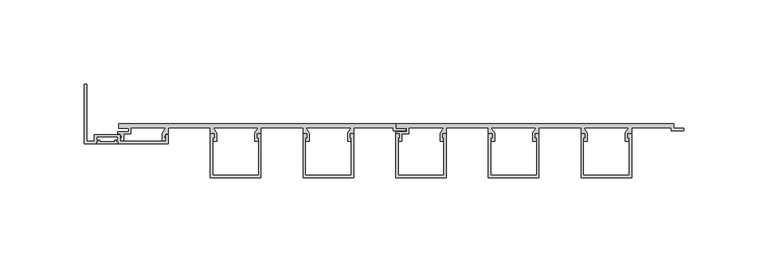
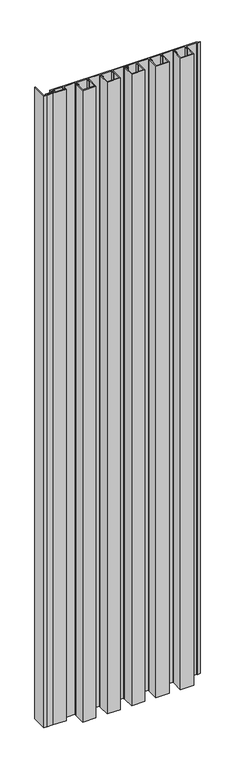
"""IFC4 building model written with IfcOpenShell, lengths in millimetres: proxy geometry, A_GEN_LINE_Main Base_Standard Cap_LTrim : A_GEN_LINE_Main Base_Standard Cap_LTrim."""

from ifc_helpers import new_model, si_unit, origin, origin_with_axes, place, context, project, spatial, polyline, outline, extrude, source, transform, mapped, element, save


def generic_models_4bb52701(model_context):
    return source(origin(), model_context, "Body", "SweptSolid", [
        extrude(outline(polyline([(-13.0106499, -11.8818695), (-13.0106499, -10.9050009), (-12.1106499, -10.9050009), (-12.1106499, -10.0050009), (-11.2354943, -10.0050009), (-11.2354943, -10.9050009), (-2.1892046, -10.9050009), (-2.1892046, -10.0050009), (-1.314049, -10.0050009), (-1.314049, -10.9050009), (-0.414049, -10.9050009), (-0.414049, -11.8818695), (-13.0106499, -11.8818695)])), origin_with_axes(), (0.0, 0.0, 1.0), 1500.0),
        extrude(outline(polyline([(-0.414049, -10.9050009), (-1.314049, -10.9050009), (-1.314049, -10.0050009), (-0.414049, -10.0050009), (-0.414049, -7.8818695), (-13.0306499, -7.8818695), (-13.0306499, -10.0050009), (-12.1306499, -10.0050009), (-12.1306499, -10.9050009), (-13.0306499, -10.9050009), (-13.0306499, -11.8818695), (-20.3575953, -11.8818695), (-20.3575953, 23.3746551), (-18.9575953, 23.3746551), (-18.9575953, -10.4818695), (-14.4306499, -10.4818695), (-14.4306499, -6.4818695), (0.985951, -6.4818695), (0.985951, -10.4818695), (28.1839928, -10.4818695), (28.1839928, -6.4818695), (29.5839928, -6.4818695), (29.5839928, -11.8818695), (-0.414049, -11.8818695), (-0.414049, -10.9050009)])), origin_with_axes(), (0.0, 0.0, 1.0), 1500.0),
        extrude(outline(polyline([(274.5919, -32.2007192), (274.5919, -6.1), (276.740907, -6.1), (276.740907, -8.3419727), (275.9919, -8.5826662), (275.9919, -30.8007192), (303.1919, -30.8007192), (303.1919, -8.5826662), (302.4428931, -8.3419727), (302.4428931, -6.1), (304.5919, -6.1), (304.5919, -32.2007192), (274.5919, -32.2007192)])), origin_with_axes(), (0.0, 0.0, 1.0), 1500.0),
        extrude(outline(polyline([(219.5902928, -32.2007192), (219.5902928, -6.1), (221.7392998, -6.1), (221.7392998, -8.3419727), (220.9902928, -8.5826662), (220.9902928, -30.8007192), (248.1902928, -30.8007192), (248.1902928, -8.5826662), (247.4412859, -8.3419727), (247.4412859, -6.1), (249.5902928, -6.1), (249.5902928, -32.2007192), (219.5902928, -32.2007192)])), origin_with_axes(), (0.0, 0.0, 1.0), 1500.0),
        extrude(outline(polyline([(164.5886856, -32.2007192), (164.5886856, -6.1), (166.7376926, -6.1), (166.7376926, -8.3419727), (165.9886856, -8.5826662), (165.9886856, -30.8007192), (193.1886856, -30.8007192), (193.1886856, -8.5826662), (192.4396787, -8.3419727), (192.4396787, -6.1), (194.5886856, -6.1), (194.5886856, -32.2007192), (164.5886856, -32.2007192)])), origin_with_axes(), (0.0, 0.0, 1.0), 1500.0),
        extrude(outline(polyline([(109.5870785, -32.2007192), (109.5870785, -6.1), (111.7360854, -6.1), (111.7360854, -8.3419727), (110.9870785, -8.5826662), (110.9870785, -30.8007192), (138.1870785, -30.8007192), (138.1870785, -8.5826662), (137.4380715, -8.3419727), (137.4380715, -6.1), (139.5870785, -6.1), (139.5870785, -32.2007192), (109.5870785, -32.2007192)])), origin_with_axes(), (0.0, 0.0, 1.0), 1500.0),
        extrude(outline(polyline([(54.5854713, -32.2007192), (54.5854713, -6.1), (56.7344782, -6.1), (56.7344782, -8.3419727), (55.9854713, -8.5826662), (55.9854713, -30.8007192), (83.1854713, -30.8007192), (83.1854713, -8.5826662), (82.4364643, -8.3419727), (82.4364643, -6.1), (84.5854713, -6.1), (84.5854713, -32.2007192), (54.5854713, -32.2007192)])), origin_with_axes(), (0.0, 0.0, 1.0), 1500.0),
        extrude(outline(polyline([(165.0, 0.0), (329.5761088, 0.0), (329.5761088, -2.85), (335.5761088, -2.85), (335.5761088, -4.2), (328.0577537, -4.2), (328.0577537, -2.4), (304.5881862, -2.4), (304.5881862, -6.1021884), (303.4732128, -6.1021884), (301.884647, -8.4994005), (303.1465809, -8.4994005), (303.1465809, -10.4818695), (300.9440548, -10.4818695), (300.9773381, -5.5238337), (303.0474159, -2.4), (276.1309809, -2.4), (278.2301021, -5.6343123), (278.2301021, -10.4818695), (276.027576, -10.4818695), (276.027576, -8.4994005), (277.2895099, -8.4994005), (275.7009441, -6.1021884), (274.5859707, -6.1021884), (274.5859707, -2.4), (249.5854713, -2.4), (249.5854713, -6.1021884), (248.4704978, -6.1021884), (246.881932, -8.4994005), (248.1438659, -8.4994005), (248.1438659, -10.4818695), (245.9413399, -10.4818695), (245.9413399, -5.5740595), (248.0447009, -2.4), (221.1304815, -2.4), (223.2296027, -5.6343123), (223.2296027, -10.4818695), (221.0270766, -10.4818695), (221.0270766, -8.4994005), (222.2890105, -8.4994005), (220.7004447, -6.1021884), (219.5854713, -6.1021884), (219.5854713, -2.4), (194.5849719, -2.4), (194.5849719, -6.1021884), (193.4699984, -6.1021884), (191.8814326, -8.4994005), (193.1433665, -8.4994005), (193.1433665, -10.4818695), (190.9408405, -10.4818695), (190.9408405, -5.6343123), (193.0399616, -2.4), (172.2195527, -2.4), (172.2195527, -6.1), (168.2291033, -6.1), (168.2291033, -10.4818695), (166.0265772, -10.4818695), (166.0265772, -8.4994005), (167.2885111, -8.4994005), (165.6999453, -6.1021884), (164.6137598, -6.1021884), (164.6137598, -4.9), (171.0195527, -4.9), (171.0195527, -2.7), (165.0, -2.7), (165.0, 0.0)])), origin_with_axes(), (0.0, 0.0, 1.0), 1500.0),
        extrude(outline(polyline([(0.0, 0.0), (164.5761088, 0.0), (164.5761088, -2.85), (170.5761088, -2.85), (170.5761088, -4.2), (163.0577537, -4.2), (163.0577537, -2.4), (139.5881862, -2.4), (139.5881862, -6.1021884), (138.4732128, -6.1021884), (136.884647, -8.4994005), (138.1465809, -8.4994005), (138.1465809, -10.4818695), (135.9440548, -10.4818695), (135.9773381, -5.5238337), (138.0474159, -2.4), (111.1309809, -2.4), (113.2301021, -5.6343123), (113.2301021, -10.4818695), (111.027576, -10.4818695), (111.027576, -8.4994005), (112.2895099, -8.4994005), (110.7009441, -6.1021884), (109.5859707, -6.1021884), (109.5859707, -2.4), (84.5854713, -2.4), (84.5854713, -6.1021884), (83.4704978, -6.1021884), (81.881932, -8.4994005), (83.1438659, -8.4994005), (83.1438659, -10.4818695), (80.9413399, -10.4818695), (80.9413399, -5.5740595), (83.0447009, -2.4), (56.1304815, -2.4), (58.2296027, -5.6343123), (58.2296027, -10.4818695), (56.0270766, -10.4818695), (56.0270766, -8.4994005), (57.2890105, -8.4994005), (55.7004447, -6.1021884), (54.5854713, -6.1021884), (54.5854713, -2.4), (29.5849719, -2.4), (29.5849719, -6.1021884), (28.4699984, -6.1021884), (26.8814326, -8.4994005), (28.1433665, -8.4994005), (28.1433665, -10.4818695), (25.9408405, -10.4818695), (25.9408405, -5.6343123), (28.0399616, -2.4), (7.2195527, -2.4), (7.2195527, -6.1), (3.2291033, -6.1), (3.2291033, -10.4818695), (1.0265772, -10.4818695), (1.0265772, -8.4994005), (2.2885111, -8.4994005), (0.6999453, -6.1021884), (-0.3862402, -6.1021884), (-0.3862402, -4.9), (6.0195527, -4.9), (6.0195527, -2.7), (0.0, -2.7), (0.0, 0.0)])), origin_with_axes(), (0.0, 0.0, 1.0), 1500.0),
    ])


if __name__ == "__main__":
    model = new_model("IFC4")
    model_context = context("Model", 3, world=origin())
    ifc_project = project(units=[si_unit("LENGTHUNIT", "METRE", prefix="MILLI")], contexts=[model_context])
    site = spatial("IfcSite", under=ifc_project)
    building = spatial("IfcBuilding", under=site)
    placement = place(None, origin())
    generic_models_shape = generic_models_4bb52701(model_context)
    element("IfcBuildingElementProxy", 1, Name="A_GEN_LINE_Main Base_Standard Cap_LTrim : A_GEN_LINE_Main Base_Standard Cap_LTrim", ObjectType="A_GEN_LINE_Main Base_Standard Cap_LTrim : A_GEN_LINE_Main Base_Standard Cap_LTrim", at=placement, inside=building, context=model_context, shape_type="MappedRepresentation", body=[
        mapped(generic_models_shape, transform((0.0, 0.0, 0.0), x_axis=(1.0, 0.0, 0.0), y_axis=(0.0, 1.0, 0.0), z_axis=(0.0, 0.0, 1.0))),
    ])
    save(model, "model.ifc")
